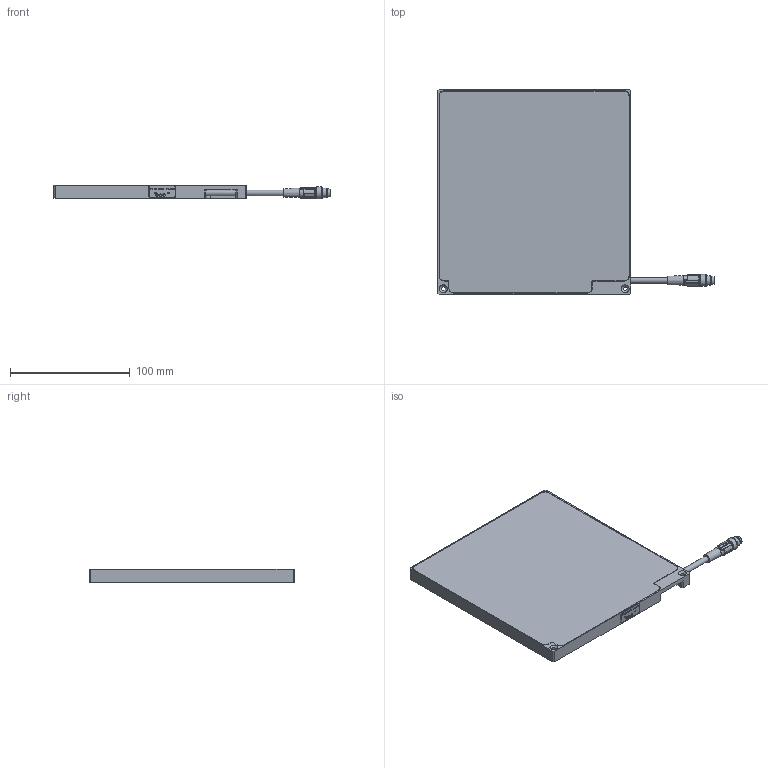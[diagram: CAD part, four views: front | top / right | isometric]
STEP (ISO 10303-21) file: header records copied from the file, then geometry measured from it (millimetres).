
FILE_DESCRIPTION(/* description */ ('Unknown','CAx-IF Rec.Pracs.---Representation and Presentation of Product Manufacturing Information (PMI)---4.0---2014-10-13','CAx-IF Rec.Pracs.---3D Tessellated Geometry---0.4---2014-09-14','2;1'),/* implementation_level */ '2;1');
FILE_NAME(/* name */ '10X.0071_BF150x150',/* time_stamp */ '2021-01-20T09:19:08+01:00',/* author */ ('AW'),/* organization */ ('iiM AG'),/* preprocessor_version */ 'ST-DEVELOPER v16.7',/* originating_system */ 'DEX',/* authorisation */ $);
FILE_SCHEMA (('AP242_MANAGED_MODEL_BASED_3D_ENGINEERING_MIM_LF { 1 0 10303 442 1 1 4 }'));
Length unit declared in the file: millimetre
Products named in the file (1): 10X.0071_BF150x150
Bounding box: 230.7 x 171.15 x 11.5 mm (x, y, z)
Volume: 158453.8 mm3; surface area: 127105.9 mm2
Topology: 2 solids, 2 shells, 366 faces, 934 edges, 621 vertices
Faces by surface type: plane 264, cylinder 78, bspline 19, cone 5
Full cylindrical faces by diameter (mm): 1 x4, 2 x4, 3.242 x4, 4.7 x3, 5.7 x1, 6.35 x1, 8 x2, 9 x1, 9.3 x2, 10 x1
Entity records: 14831 total; most frequent: CARTESIAN_POINT 3767, ORIENTED_EDGE 1786, DIRECTION 1688, EDGE_CURVE 893, LINE 676, VECTOR 676, VERTEX_POINT 611, AXIS2_PLACEMENT_3D 506
